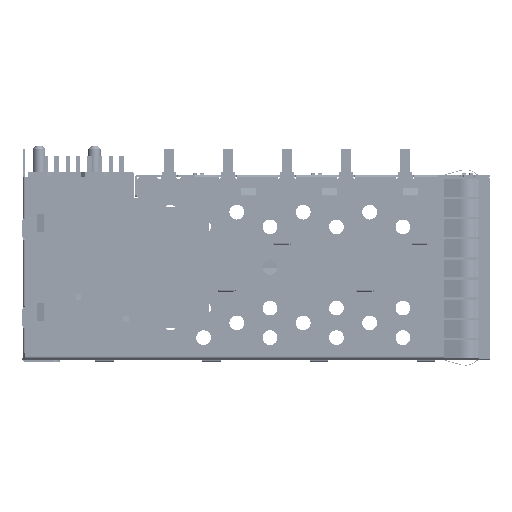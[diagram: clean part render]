
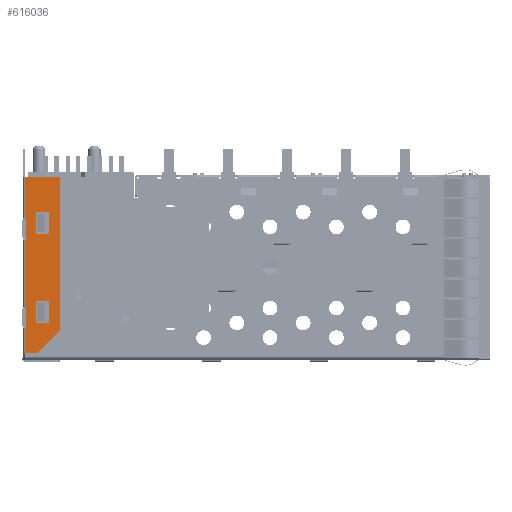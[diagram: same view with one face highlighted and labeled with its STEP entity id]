
A CAD part, left-side view. The second image highlights one B-rep face of the part: STEP entity #616036.
In plain terms, the highlighted planar face has unit normal (-1, 0, 0).
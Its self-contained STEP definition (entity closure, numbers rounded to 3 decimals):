
#222237=DIRECTION('',(0.,0.,-1.));
#222238=VECTOR('',#222237,3.3);
#222239=CARTESIAN_POINT('',(0.45,4.25,-24.3));
#222240=LINE('',#222239,#222238);
#222258=DIRECTION('',(0.,1.,0.));
#222259=VECTOR('',#222258,0.2);
#222260=CARTESIAN_POINT('',(0.45,4.05,-24.3));
#222261=LINE('',#222260,#222259);
#222270=DIRECTION('',(0.,0.707,
-0.707));
#222271=VECTOR('',#222270,4.243);
#222272=CARTESIAN_POINT('',(0.45,-0.5,-24.6));
#222273=LINE('',#222272,#222271);
#222274=DIRECTION('',(0.,1.,0.));
#222275=VECTOR('',#222274,1.75);
#222276=CARTESIAN_POINT('',(0.45,2.5,-27.6));
#222277=LINE('',#222276,#222275);
#222278=DIRECTION('',(0.,0.,1.));
#222279=VECTOR('',#222278,3.);
#222280=CARTESIAN_POINT('',(0.45,4.05,-24.3));
#222281=LINE('',#222280,#222279);
#222282=DIRECTION('',(0.,1.,0.));
#222283=VECTOR('',#222282,0.2);
#222284=CARTESIAN_POINT('',(0.45,4.05,-21.3));
#222285=LINE('',#222284,#222283);
#222286=DIRECTION('',(0.,-1.,0.));
#222287=VECTOR('',#222286,0.2);
#222288=CARTESIAN_POINT('',(0.45,4.25,-12.3));
#222289=LINE('',#222288,#222287);
#222290=DIRECTION('',(0.,0.,1.));
#222291=VECTOR('',#222290,3.);
#222292=CARTESIAN_POINT('',(0.45,4.05,-12.3));
#222293=LINE('',#222292,#222291);
#222294=DIRECTION('',(0.,1.,0.));
#222295=VECTOR('',#222294,0.2);
#222296=CARTESIAN_POINT('',(0.45,4.05,-9.3));
#222297=LINE('',#222296,#222295);
#222298=DIRECTION('',(0.,-1.,0.));
#222299=VECTOR('',#222298,4.75);
#222300=CARTESIAN_POINT('',(0.45,4.25,-3.8));
#222301=LINE('',#222300,#222299);
#222302=DIRECTION('',(0.,0.,-1.));
#222303=VECTOR('',#222302,20.8);
#222304=CARTESIAN_POINT('',(0.45,-0.5,-3.8));
#222305=LINE('',#222304,#222303);
#222306=DIRECTION('',(0.,-1.,0.));
#222307=VECTOR('',#222306,1.5);
#222308=CARTESIAN_POINT('',(0.45,2.65,-11.55));
#222309=LINE('',#222308,#222307);
#222310=CARTESIAN_POINT('',(0.45,1.15,-11.4));
#222311=DIRECTION('',(-1.,0.,0.));
#222312=DIRECTION('',(0.,0.,-1.));
#222313=AXIS2_PLACEMENT_3D('',#222310,#222311,#222312);
#222315=DIRECTION('',(0.,0.,1.));
#222316=VECTOR('',#222315,2.7);
#222317=CARTESIAN_POINT('',(0.45,1.,-11.4));
#222318=LINE('',#222317,#222316);
#222319=CARTESIAN_POINT('',(0.45,1.15,-8.7));
#222320=DIRECTION('',(-1.,0.,0.));
#222321=DIRECTION('',(0.,-1.,0.));
#222322=AXIS2_PLACEMENT_3D('',#222319,#222320,#222321);
#222324=DIRECTION('',(0.,1.,0.));
#222325=VECTOR('',#222324,1.5);
#222326=CARTESIAN_POINT('',(0.45,1.15,-8.55));
#222327=LINE('',#222326,#222325);
#222328=CARTESIAN_POINT('',(0.45,2.65,-8.7));
#222329=DIRECTION('',(-1.,0.,0.));
#222330=DIRECTION('',(0.,0.,1.));
#222331=AXIS2_PLACEMENT_3D('',#222328,#222329,#222330);
#222333=DIRECTION('',(0.,0.,-1.));
#222334=VECTOR('',#222333,2.7);
#222335=CARTESIAN_POINT('',(0.45,2.8,-8.7));
#222336=LINE('',#222335,#222334);
#222337=CARTESIAN_POINT('',(0.45,2.65,-11.4));
#222338=DIRECTION('',(-1.,0.,0.));
#222339=DIRECTION('',(0.,1.,0.));
#222340=AXIS2_PLACEMENT_3D('',#222337,#222338,#222339);
#222342=DIRECTION('',(0.,0.,-1.));
#222343=VECTOR('',#222342,2.7);
#222344=CARTESIAN_POINT('',(0.45,2.8,-20.7));
#222345=LINE('',#222344,#222343);
#222346=CARTESIAN_POINT('',(0.45,2.65,-23.4));
#222347=DIRECTION('',(-1.,0.,0.));
#222348=DIRECTION('',(0.,1.,0.));
#222349=AXIS2_PLACEMENT_3D('',#222346,#222347,#222348);
#222351=DIRECTION('',(0.,-1.,0.));
#222352=VECTOR('',#222351,1.5);
#222353=CARTESIAN_POINT('',(0.45,2.65,-23.55));
#222354=LINE('',#222353,#222352);
#222355=CARTESIAN_POINT('',(0.45,1.15,-23.4));
#222356=DIRECTION('',(-1.,0.,0.));
#222357=DIRECTION('',(0.,0.,-1.));
#222358=AXIS2_PLACEMENT_3D('',#222355,#222356,#222357);
#222360=DIRECTION('',(0.,0.,1.));
#222361=VECTOR('',#222360,2.7);
#222362=CARTESIAN_POINT('',(0.45,1.,-23.4));
#222363=LINE('',#222362,#222361);
#222364=CARTESIAN_POINT('',(0.45,1.15,-20.7));
#222365=DIRECTION('',(-1.,0.,0.));
#222366=DIRECTION('',(0.,-1.,0.));
#222367=AXIS2_PLACEMENT_3D('',#222364,#222365,#222366);
#222369=DIRECTION('',(0.,1.,0.));
#222370=VECTOR('',#222369,1.5);
#222371=CARTESIAN_POINT('',(0.45,1.15,-20.55));
#222372=LINE('',#222371,#222370);
#222373=CARTESIAN_POINT('',(0.45,2.65,-20.7));
#222374=DIRECTION('',(-1.,0.,0.));
#222375=DIRECTION('',(0.,0.,1.));
#222376=AXIS2_PLACEMENT_3D('',#222373,#222374,#222375);
#222415=DIRECTION('',(0.,0.,-1.));
#222416=VECTOR('',#222415,5.5);
#222417=CARTESIAN_POINT('',(0.45,4.25,-3.8));
#222418=LINE('',#222417,#222416);
#222602=DIRECTION('',(0.,0.,-1.));
#222603=VECTOR('',#222602,9.);
#222604=CARTESIAN_POINT('',(0.45,4.25,-12.3));
#222605=LINE('',#222604,#222603);
#305841=CARTESIAN_POINT('',(0.45,4.25,-27.6));
#305842=VERTEX_POINT('',#305841);
#305843=CARTESIAN_POINT('',(0.45,4.25,-24.3));
#305844=VERTEX_POINT('',#305843);
#305845=CARTESIAN_POINT('',(0.45,4.05,-24.3));
#305846=VERTEX_POINT('',#305845);
#305849=CARTESIAN_POINT('',(0.45,2.5,-27.6));
#305850=VERTEX_POINT('',#305849);
#305851=CARTESIAN_POINT('',(0.45,4.05,-21.3));
#305852=VERTEX_POINT('',#305851);
#305853=CARTESIAN_POINT('',(0.45,4.25,-21.3));
#305854=VERTEX_POINT('',#305853);
#305855=CARTESIAN_POINT('',(0.45,4.25,-12.3));
#305856=VERTEX_POINT('',#305855);
#305857=CARTESIAN_POINT('',(0.45,4.05,-12.3));
#305858=VERTEX_POINT('',#305857);
#305859=CARTESIAN_POINT('',(0.45,4.05,-9.3));
#305860=VERTEX_POINT('',#305859);
#305861=CARTESIAN_POINT('',(0.45,4.25,-9.3));
#305862=VERTEX_POINT('',#305861);
#305863=CARTESIAN_POINT('',(0.45,4.25,-3.8));
#305864=VERTEX_POINT('',#305863);
#305865=CARTESIAN_POINT('',(0.45,2.65,-11.55));
#305866=CARTESIAN_POINT('',(0.45,1.15,-11.55));
#305867=VERTEX_POINT('',#305865);
#305868=VERTEX_POINT('',#305866);
#305869=CARTESIAN_POINT('',(0.45,1.,-11.4));
#305870=VERTEX_POINT('',#305869);
#305871=CARTESIAN_POINT('',(0.45,1.,-8.7));
#305872=VERTEX_POINT('',#305871);
#305873=CARTESIAN_POINT('',(0.45,1.15,-8.55));
#305874=VERTEX_POINT('',#305873);
#305875=CARTESIAN_POINT('',(0.45,2.65,-8.55));
#305876=VERTEX_POINT('',#305875);
#305877=CARTESIAN_POINT('',(0.45,2.8,-8.7));
#305878=VERTEX_POINT('',#305877);
#305879=CARTESIAN_POINT('',(0.45,2.8,-11.4));
#305880=VERTEX_POINT('',#305879);
#305881=CARTESIAN_POINT('',(0.45,2.8,-20.7));
#305882=CARTESIAN_POINT('',(0.45,2.8,-23.4));
#305883=VERTEX_POINT('',#305881);
#305884=VERTEX_POINT('',#305882);
#305885=CARTESIAN_POINT('',(0.45,2.65,-23.55));
#305886=VERTEX_POINT('',#305885);
#305887=CARTESIAN_POINT('',(0.45,1.15,-23.55));
#305888=VERTEX_POINT('',#305887);
#305889=CARTESIAN_POINT('',(0.45,1.,-23.4));
#305890=VERTEX_POINT('',#305889);
#305891=CARTESIAN_POINT('',(0.45,1.,-20.7));
#305892=VERTEX_POINT('',#305891);
#305893=CARTESIAN_POINT('',(0.45,1.15,-20.55));
#305894=VERTEX_POINT('',#305893);
#305895=CARTESIAN_POINT('',(0.45,2.65,-20.55));
#305896=VERTEX_POINT('',#305895);
#307389=CARTESIAN_POINT('',(0.45,-0.5,-24.6));
#307390=VERTEX_POINT('',#307389);
#307391=CARTESIAN_POINT('',(0.45,-0.5,-3.8));
#307392=VERTEX_POINT('',#307391);
#615969=CARTESIAN_POINT('',(0.45,2.125,-15.7));
#615970=DIRECTION('',(1.,0.,0.));
#615971=DIRECTION('',(0.,-1.,0.));
#615972=AXIS2_PLACEMENT_3D('',#615969,#615970,#615971);
#615973=PLANE('',#615972);
#615975=ORIENTED_EDGE('',*,*,#615974,.T.);
#615977=ORIENTED_EDGE('',*,*,#615976,.T.);
#615978=ORIENTED_EDGE('',*,*,#615934,.F.);
#615979=ORIENTED_EDGE('',*,*,#615959,.F.);
#615981=ORIENTED_EDGE('',*,*,#615980,.T.);
#615983=ORIENTED_EDGE('',*,*,#615982,.T.);
#615985=ORIENTED_EDGE('',*,*,#615984,.F.);
#615987=ORIENTED_EDGE('',*,*,#615986,.T.);
#615989=ORIENTED_EDGE('',*,*,#615988,.T.);
#615991=ORIENTED_EDGE('',*,*,#615990,.T.);
#615993=ORIENTED_EDGE('',*,*,#615992,.F.);
#615995=ORIENTED_EDGE('',*,*,#615994,.T.);
#615997=ORIENTED_EDGE('',*,*,#615996,.T.);
#615998=EDGE_LOOP('',(#615975,#615977,#615978,#615979,#615981,#615983,#615985,
#615987,#615989,#615991,#615993,#615995,#615997));
#615999=FACE_OUTER_BOUND('',#615998,.F.);
#616001=ORIENTED_EDGE('',*,*,#616000,.T.);
#616003=ORIENTED_EDGE('',*,*,#616002,.T.);
#616005=ORIENTED_EDGE('',*,*,#616004,.T.);
#616007=ORIENTED_EDGE('',*,*,#616006,.T.);
#616009=ORIENTED_EDGE('',*,*,#616008,.T.);
#616011=ORIENTED_EDGE('',*,*,#616010,.T.);
#616013=ORIENTED_EDGE('',*,*,#616012,.T.);
#616015=ORIENTED_EDGE('',*,*,#616014,.T.);
#616016=EDGE_LOOP('',(#616001,#616003,#616005,#616007,#616009,#616011,#616013,
#616015));
#616017=FACE_BOUND('',#616016,.F.);
#616019=ORIENTED_EDGE('',*,*,#616018,.T.);
#616021=ORIENTED_EDGE('',*,*,#616020,.T.);
#616023=ORIENTED_EDGE('',*,*,#616022,.T.);
#616025=ORIENTED_EDGE('',*,*,#616024,.T.);
#616027=ORIENTED_EDGE('',*,*,#616026,.T.);
#616029=ORIENTED_EDGE('',*,*,#616028,.T.);
#616031=ORIENTED_EDGE('',*,*,#616030,.T.);
#616033=ORIENTED_EDGE('',*,*,#616032,.T.);
#616034=EDGE_LOOP('',(#616019,#616021,#616023,#616025,#616027,#616029,#616031,
#616033));
#616035=FACE_BOUND('',#616034,.F.);
#222314=CIRCLE('',#222313,0.15);
#222323=CIRCLE('',#222322,0.15);
#222332=CIRCLE('',#222331,0.15);
#222341=CIRCLE('',#222340,0.15);
#222350=CIRCLE('',#222349,0.15);
#222359=CIRCLE('',#222358,0.15);
#222368=CIRCLE('',#222367,0.15);
#222377=CIRCLE('',#222376,0.15);
#615934=EDGE_CURVE('',#305844,#305842,#222240,.T.);
#615959=EDGE_CURVE('',#305846,#305844,#222261,.T.);
#615974=EDGE_CURVE('',#307390,#305850,#222273,.T.);
#615976=EDGE_CURVE('',#305850,#305842,#222277,.T.);
#615980=EDGE_CURVE('',#305846,#305852,#222281,.T.);
#615982=EDGE_CURVE('',#305852,#305854,#222285,.T.);
#615984=EDGE_CURVE('',#305856,#305854,#222605,.T.);
#615986=EDGE_CURVE('',#305856,#305858,#222289,.T.);
#615988=EDGE_CURVE('',#305858,#305860,#222293,.T.);
#615990=EDGE_CURVE('',#305860,#305862,#222297,.T.);
#615992=EDGE_CURVE('',#305864,#305862,#222418,.T.);
#615994=EDGE_CURVE('',#305864,#307392,#222301,.T.);
#615996=EDGE_CURVE('',#307392,#307390,#222305,.T.);
#616000=EDGE_CURVE('',#305867,#305868,#222309,.T.);
#616002=EDGE_CURVE('',#305868,#305870,#222314,.T.);
#616004=EDGE_CURVE('',#305870,#305872,#222318,.T.);
#616006=EDGE_CURVE('',#305872,#305874,#222323,.T.);
#616008=EDGE_CURVE('',#305874,#305876,#222327,.T.);
#616010=EDGE_CURVE('',#305876,#305878,#222332,.T.);
#616012=EDGE_CURVE('',#305878,#305880,#222336,.T.);
#616014=EDGE_CURVE('',#305880,#305867,#222341,.T.);
#616018=EDGE_CURVE('',#305883,#305884,#222345,.T.);
#616020=EDGE_CURVE('',#305884,#305886,#222350,.T.);
#616022=EDGE_CURVE('',#305886,#305888,#222354,.T.);
#616024=EDGE_CURVE('',#305888,#305890,#222359,.T.);
#616026=EDGE_CURVE('',#305890,#305892,#222363,.T.);
#616028=EDGE_CURVE('',#305892,#305894,#222368,.T.);
#616030=EDGE_CURVE('',#305894,#305896,#222372,.T.);
#616032=EDGE_CURVE('',#305896,#305883,#222377,.T.);
#616036=ADVANCED_FACE('',(#615999,#616017,#616035),#615973,.F.);
